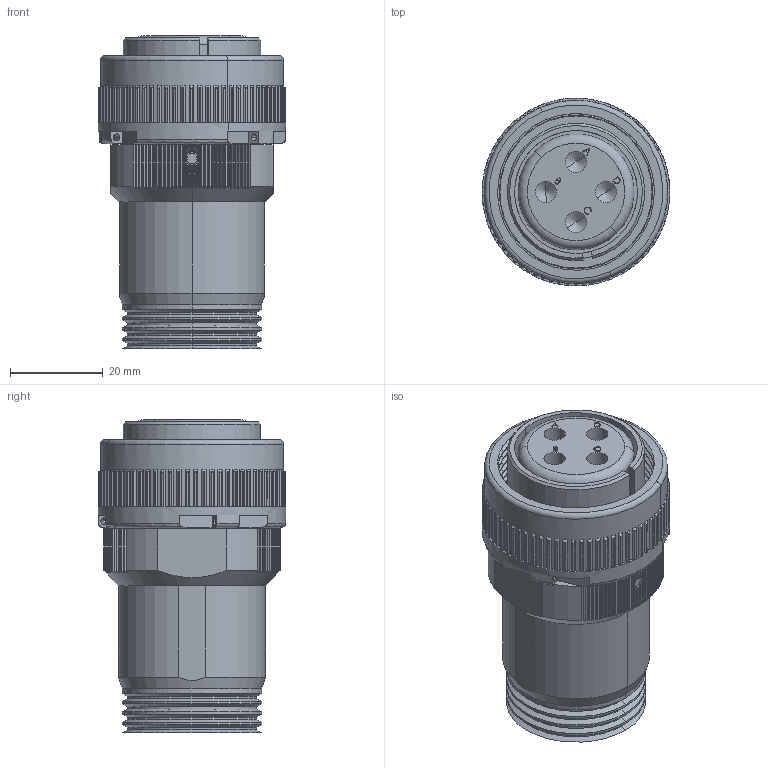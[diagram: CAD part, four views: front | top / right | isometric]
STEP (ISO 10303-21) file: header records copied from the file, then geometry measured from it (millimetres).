
FILE_DESCRIPTION (( 'STEP AP214' ), '1' );
FILE_NAME ('WPS3106A 22-22S-R.STEP', '2025-12-27T10:33:08', ( '' ), ( '' ), 'SwSTEP 2.0', 'SolidWorks 2021', '' );
FILE_SCHEMA (( 'AUTOMOTIVE_DESIGN' ));
Length unit declared in the file: millimetre
Products named in the file (1): WPS3106A 22-22S-R
Bounding box: 40.45 x 40.45 x 67.6 mm (x, y, z)
Volume: 36799.7 mm3; surface area: 35883.1 mm2
Topology: 13 solids, 13 shells, 1384 faces, 3635 edges, 2327 vertices
Faces by surface type: plane 736, cylinder 408, cone 172, bspline 50, torus 18
Entity records: 62053 total; most frequent: CARTESIAN_POINT 13254, ORIENTED_EDGE 7238, DIRECTION 6623, EDGE_CURVE 3619, AXIS2_PLACEMENT_3D 2388, VERTEX_POINT 2327, LINE 1847, VECTOR 1847
